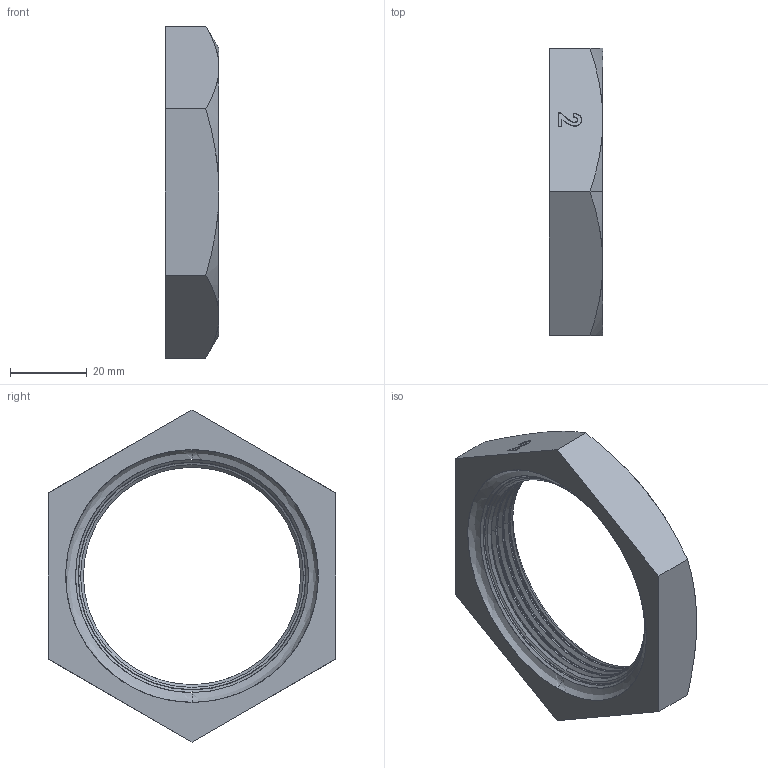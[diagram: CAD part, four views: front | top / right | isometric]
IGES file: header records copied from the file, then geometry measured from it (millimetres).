
Start section: SolidWorks IGES file using analytic representation for surfaces
Global section: file name: C:\Users\Joel Rosa\Desktop\Tubulação\12-06-XXX\12-06-010.IGS; native system: SolidWorks 2011; preprocessor: SolidWorks 2011; author: Joel Rosa; date: 130806.180946; units: millimetre
Bounding box: 14 x 75 x 86.6 mm (x, y, z)
Surface area: 11165.6 mm2 (no closed solid volume)
Topology: 0 solids, 0 shells, 147 faces, 1549 edges, 1549 vertices
Faces by surface type: bspline 116, revolution 31
